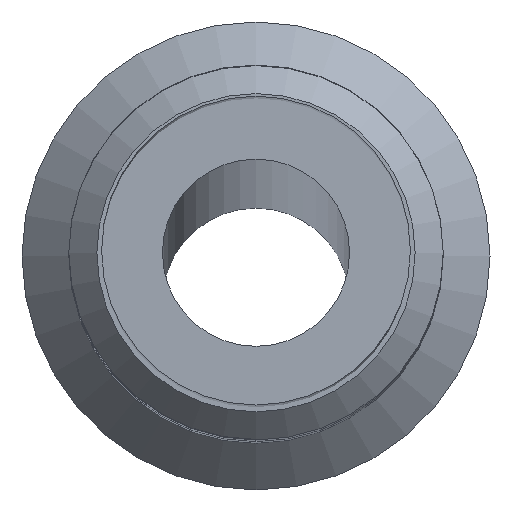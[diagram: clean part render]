
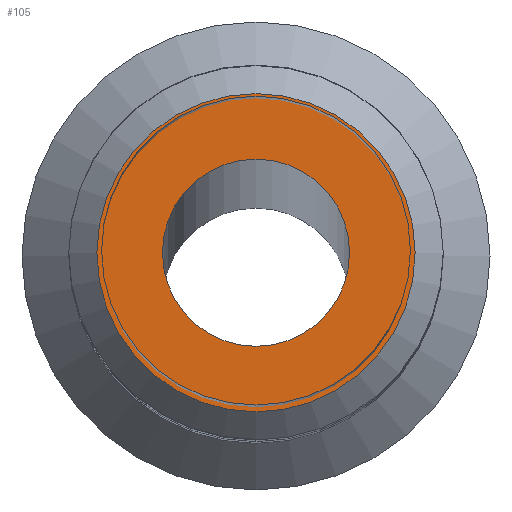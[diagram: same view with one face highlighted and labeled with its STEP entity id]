
A CAD part, top view. The second image highlights one B-rep face of the part: STEP entity #105.
In plain terms, the highlighted planar face has unit normal (0, 0, 1).
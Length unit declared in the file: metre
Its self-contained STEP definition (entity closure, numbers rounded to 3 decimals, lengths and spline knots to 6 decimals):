
#105=ADVANCED_FACE('',(#211,#212),#213,.T.);
#211=FACE_OUTER_BOUND('',#321,.T.);
#212=FACE_BOUND('',#322,.T.);
#213=PLANE('',#323);
#321=EDGE_LOOP('',(#462));
#322=EDGE_LOOP('',(#463));
#323=AXIS2_PLACEMENT_3D('',#464,#465,#466);
#462=ORIENTED_EDGE('',*,*,#513,.T.);
#463=ORIENTED_EDGE('',*,*,#519,.T.);
#464=CARTESIAN_POINT('',(0.0,0.,0.02));
#465=DIRECTION('',(0.0,0.0,1.0));
#466=DIRECTION('',(1.0,0.0,-0.0));
#513=EDGE_CURVE('',#575,#575,#576,.T.);
#519=EDGE_CURVE('',#585,#585,#586,.F.);
#575=VERTEX_POINT('',#663);
#576=CIRCLE('',#664,0.0017);
#585=VERTEX_POINT('',#673);
#586=CIRCLE('',#674,0.001);
#663=CARTESIAN_POINT('',(0.0017,0.,0.02));
#664=AXIS2_PLACEMENT_3D('',#762,#763,#764);
#673=CARTESIAN_POINT('',(0.001,0.,0.02));
#674=AXIS2_PLACEMENT_3D('',#774,#775,#776);
#762=CARTESIAN_POINT('',(0.0,0.,0.02));
#763=DIRECTION('',(0.0,0.0,1.0));
#764=DIRECTION('',(1.0,0.0,-0.0));
#774=CARTESIAN_POINT('',(0.0,0.,0.02));
#775=DIRECTION('',(0.0,0.0,1.0));
#776=DIRECTION('',(1.0,0.0,-0.0));
